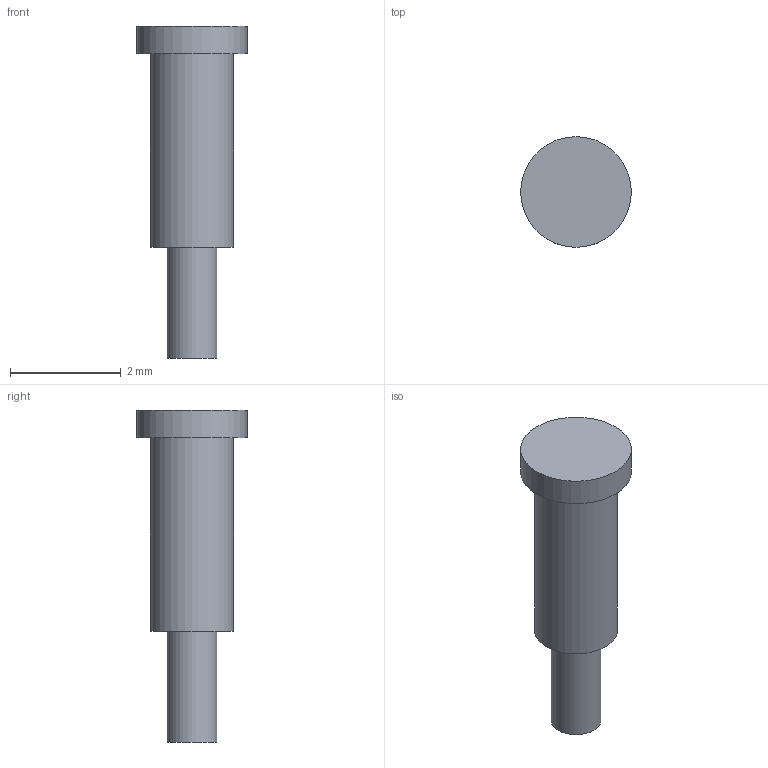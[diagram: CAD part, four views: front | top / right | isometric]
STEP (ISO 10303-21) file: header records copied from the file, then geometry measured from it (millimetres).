
FILE_DESCRIPTION(('Open CASCADE Model'),'2;1');
FILE_NAME('Open CASCADE Shape Model','2026-10-30T11:48:04',('Author'),( 'Open CASCADE'),'Open CASCADE STEP processor 7.9','Open CASCADE 7.9' ,'Unknown');
FILE_SCHEMA(('AUTOMOTIVE_DESIGN { 1 0 10303 214 1 1 1 1 }'));
Length unit declared in the file: millimetre
Products named in the file (1): Open CASCADE STEP translator 7.9 11
Bounding box: 2 x 2 x 6 mm (x, y, z)
Volume: 9 mm3; surface area: 31.6 mm2
Topology: 1 solids, 1 shells, 7 faces, 9 edges, 6 vertices
Faces by surface type: plane 4, cylinder 3
Full cylindrical faces by diameter (mm): 0.9 x1, 1.5 x1, 2 x1
Entity records: 276 total; most frequent: DIRECTION 49, CARTESIAN_POINT 41, ORIENTED_EDGE 18, PCURVE 18, DEFINITIONAL_REPRESENTATION 18, LINE 15, VECTOR 15, AXIS2_PLACEMENT_3D 14
